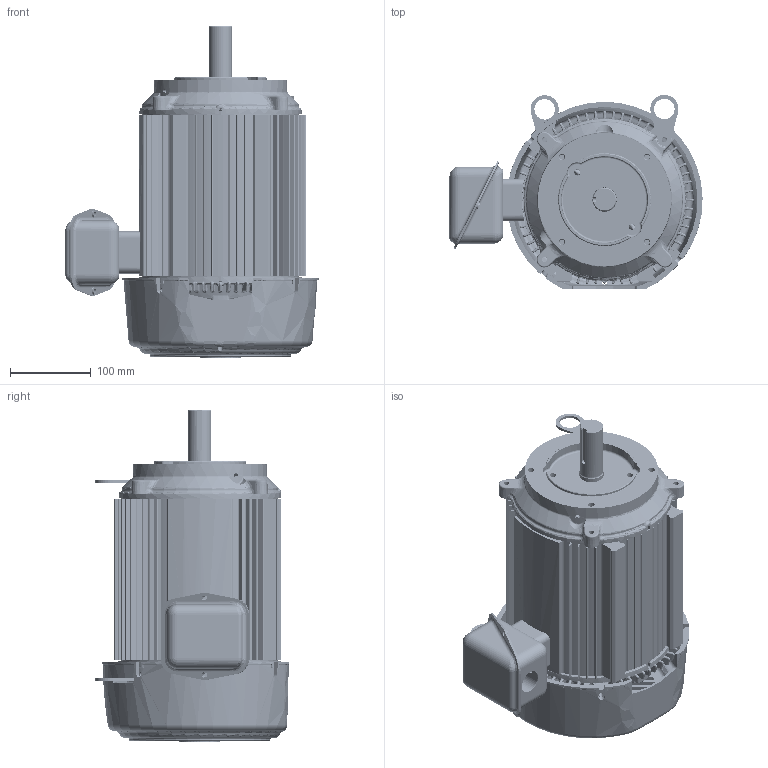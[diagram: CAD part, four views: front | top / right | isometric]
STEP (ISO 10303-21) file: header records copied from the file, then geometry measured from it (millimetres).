
FILE_DESCRIPTION((''),'2;1');
FILE_NAME('STD_CHFACE_ASM','2014-07-02T',('emd2341'),('Nidec Motor Corporation'),'PRO/ENGINEER BY PARAMETRIC TECHNOLOGY CORPORATION, 2013150','PRO/ENGINEER BY PARAMETRIC TECHNOLOGY CORPORATION, 2013150','');
FILE_SCHEMA(('CONFIG_CONTROL_DESIGN'));
Length unit declared in the file: inch
Products named in the file (16): 0390926_AF0; 0390920; 0382071-BKT_AF0; 0298010_AF0; 0384147_ASM; 0380777-BKT_AF0; 0361252_AF0; 1001160_ASM; 0541983; 0027197; 0361286; 0362988; 0361265; 0390928; 0390417; STD_CHFACE_ASM
Assembly tree (16 placements, depth 3):
  STD_CHFACE_ASM
    0390926_AF0
    0390920
    0384147_ASM
      0382071-BKT_AF0
      0298010_AF0
    1001160_ASM
      0380777-BKT_AF0
      0361252_AF0
    0541983
    0027197
    0361286
    0362988  x2
    0361265
    0390928
    0390417
Bounding box: 313.46 x 239.93 x 411 mm (x, y, z)
Volume: 1963713 mm3; surface area: 1015557.9 mm2
Topology: 16 solids, 16 shells, 4838 faces, 11828 edges, 6990 vertices
Faces by surface type: bspline 2034, cylinder 989, plane 916, torus 440, cone 309, sphere 150
Entity records: 263621 total; most frequent: CARTESIAN_POINT 165029, ORIENTED_EDGE 23576, DIRECTION 16844, EDGE_CURVE 11788, AXIS2_PLACEMENT_3D 7138, VERTEX_POINT 6974, EDGE_LOOP 4976, B_SPLINE_CURVE_WITH_KNOTS 4912
